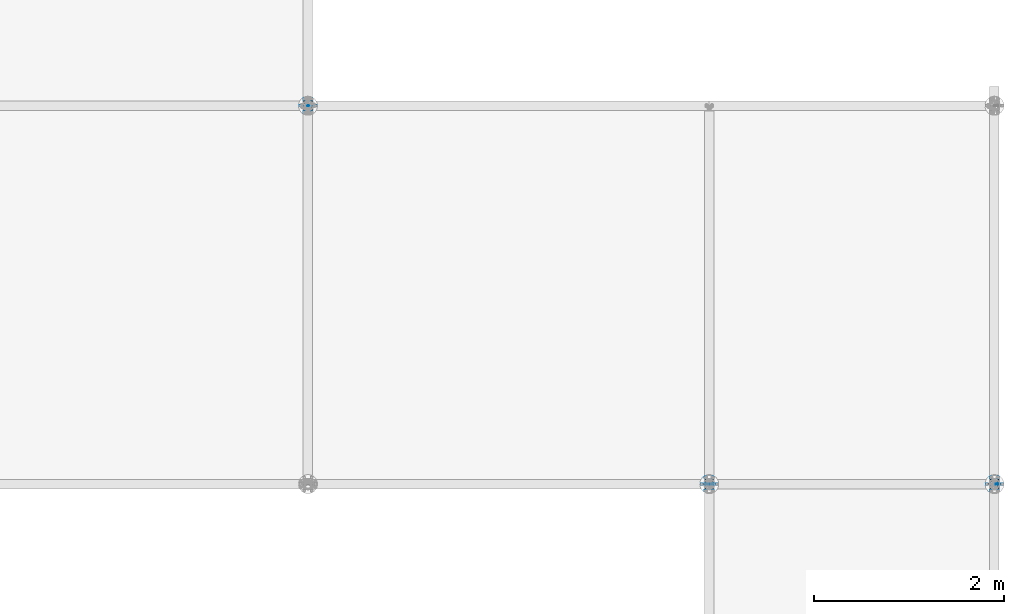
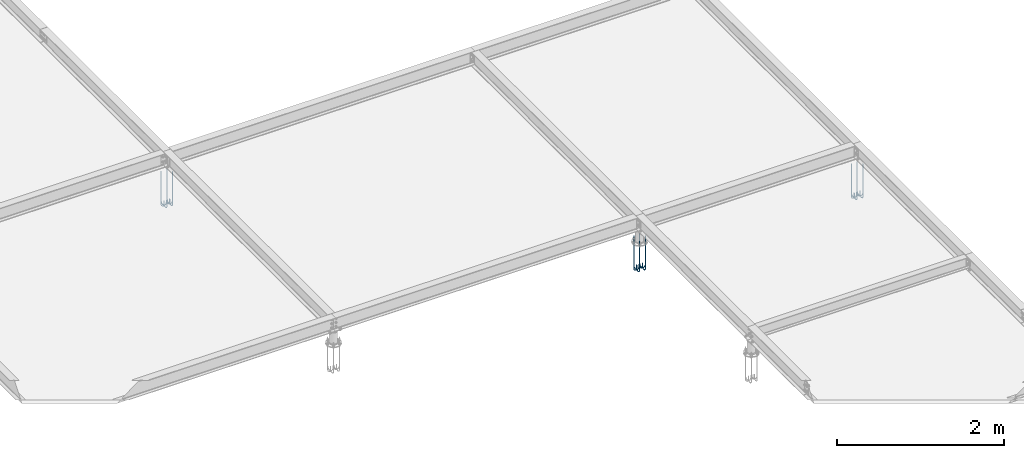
# One storey, part 13 of 84: 9 reinforcing bars.
"""IFC4 building model written with IfcOpenShell, lengths in metres."""

from ifc_helpers import new_model, entity, si_unit, frame, origin_with_axes, place, context, project, spatial, source, transform, mapped, element, save


model = new_model("IFC4")

# Units and contexts
model_context = context("Model", 3, precision=1e-05, world=origin_with_axes())
ifc_project = project(units=[si_unit("LENGTHUNIT", "METRE"), si_unit("AREAUNIT", "SQUARE_METRE"), si_unit("VOLUMEUNIT", "CUBIC_METRE"), si_unit("MASSUNIT", "GRAM", prefix="KILO"), si_unit("TIMEUNIT", "SECOND"), si_unit("PLANEANGLEUNIT", "RADIAN"), si_unit("SOLIDANGLEUNIT", "STERADIAN"), si_unit("THERMODYNAMICTEMPERATUREUNIT", "DEGREE_CELSIUS")], contexts=[model_context])

# Site, building, storey
placement_1 = place(None, origin_with_axes())
site = spatial("IfcSite", under=ifc_project, at=placement_1, Name="Italia", CompositionType="ELEMENT")
building = spatial("IfcBuilding", under=site, at=placement_1, Name="Tettoia", CompositionType="ELEMENT")
storey_placement = place(None, frame((0.0, 0.0, 4.199999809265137), z_axis=(0.0, 0.0, 1.0), x_axis=(1.0, 0.0, 0.0)))
storey = spatial("IfcBuildingStorey", under=building, at=storey_placement, Name="Storey 1", CompositionType="ELEMENT", Elevation=4.199999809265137)

# Reinforcing bars
shared_shape_1 = source(origin_with_axes(), model_context, "Body", "AdvancedSweptSolid", [
    entity("IfcSweptDiskSolid", entity("IfcIndexedPolyCurve", entity("IfcCartesianPointList3D", [[8.21, 9.97, 4.065], [8.21, 9.97, 3.642]]), [entity("IfcLineIndex", [1, 2])], False), 0.006),
])
placement_2 = place(placement_1, origin_with_axes())
reinforcing_bar_1_placement = place(placement_2, origin_with_axes())
element("IfcReinforcingBar", 1, at=reinforcing_bar_1_placement, inside=storey, BarLength=0.423, CrossSectionArea=0.0001131, NominalDiameter=0.012, context=model_context, shape_type="MappedRepresentation", body=[
    mapped(shared_shape_1, transform((0.120001, -0.0692816, 0.0), x_axis=(1.0, 0.0, 0.0), y_axis=(0.0, 1.0, 0.0), z_axis=(0.0, 0.0, 1.0), scale=1.0)),
    mapped(shared_shape_1, transform((0.0400009, -0.0692816, 0.0), x_axis=(1.0, 0.0, 0.0), y_axis=(0.0, 1.0, 0.0), z_axis=(0.0, 0.0, 1.0), scale=1.0)),
    mapped(shared_shape_1, transform((0.0, 0.0, 0.0), x_axis=(1.0, 0.0, 0.0), y_axis=(0.0, 1.0, 0.0), z_axis=(0.0, 0.0, 1.0), scale=1.0)),
    mapped(shared_shape_1, transform((0.0400009, 0.0692816, 0.0), x_axis=(1.0, 0.0, 0.0), y_axis=(0.0, 1.0, 0.0), z_axis=(0.0, 0.0, 1.0), scale=1.0)),
    mapped(shared_shape_1, transform((0.120001, 0.0692816, 0.0), x_axis=(1.0, 0.0, 0.0), y_axis=(0.0, 1.0, 0.0), z_axis=(0.0, 0.0, 1.0), scale=1.0)),
    mapped(shared_shape_1, transform((0.160002, 0.0, 0.0), x_axis=(1.0, 0.0, 0.0), y_axis=(0.0, 1.0, 0.0), z_axis=(0.0, 0.0, 1.0), scale=1.0)),
])
shared_shape_2 = source(origin_with_axes(), model_context, "Body", "AdvancedSweptSolid", [
    entity("IfcSweptDiskSolid", entity("IfcIndexedPolyCurve", entity("IfcCartesianPointList3D", [[8.21, 9.97, 3.642], [8.21274, 9.97, 3.62822]]), [entity("IfcLineIndex", [1, 2])], False), 0.006),
])
reinforcing_bar_2_placement = place(placement_2, origin_with_axes())
element("IfcReinforcingBar", 2, at=reinforcing_bar_2_placement, inside=storey, BarLength=0.0140465, CrossSectionArea=0.0001131, NominalDiameter=0.012, context=model_context, shape_type="MappedRepresentation", body=[
    mapped(shared_shape_2, transform((-1.64, 9.79446, -5.37005), x_axis=(0.0, -0.382719, 0.923865), y_axis=(1.0, 0.0, 0.0), z_axis=(0.0, 0.923865, 0.382719), scale=1.0)),
    mapped(shared_shape_2, transform((-1.72, 9.79446, -5.37005), x_axis=(0.0, -0.382719, 0.923865), y_axis=(1.0, 0.0, 0.0), z_axis=(0.0, 0.923865, 0.382719), scale=1.0)),
    mapped(shared_shape_2, transform((-1.64, 13.2593, -4.76388), x_axis=(0.0, -0.707153, 0.707061), y_axis=(1.0, 0.0, 0.0), z_axis=(0.0, 0.707061, 0.707153), scale=1.0)),
    mapped(shared_shape_2, transform((-1.72, 13.2593, -4.76388), x_axis=(0.0, -0.707153, 0.707061), y_axis=(1.0, 0.0, 0.0), z_axis=(0.0, 0.707061, 0.707153), scale=1.0)),
    mapped(shared_shape_2, transform((4.6923, 19.94, -4.60413), x_axis=(-3.65972e-05, 0.0, 1.0), y_axis=(0.0, -1.0, 0.0), z_axis=(1.0, 0.0, 3.65972e-05), scale=1.0)),
    mapped(shared_shape_2, transform((-1.72, 6.36158, -4.60413), x_axis=(0.0, -3.65972e-05, 1.0), y_axis=(1.0, 0.0, 0.0), z_axis=(0.0, 1.0, 3.65972e-05), scale=1.0)),
    mapped(shared_shape_2, transform((-1.64, 16.228, -2.8782), x_axis=(0.0, -0.923891, 0.382657), y_axis=(1.0, 0.0, 0.0), z_axis=(0.0, 0.382657, 0.923891), scale=1.0)),
    mapped(shared_shape_2, transform((-1.64, 3.48297, -2.58264), x_axis=(0.0, 0.382674, 0.923883), y_axis=(1.0, 0.0, 0.0), z_axis=(0.0, 0.923883, -0.382674), scale=1.0)),
    mapped(shared_shape_2, transform((8.12518, 19.94, -5.37005), x_axis=(-0.382719, 0.0, 0.923865), y_axis=(0.0, -1.0, 0.0), z_axis=(0.923865, 0.0, 0.382719), scale=1.0)),
    mapped(shared_shape_2, transform((-1.72, 16.228, -2.8782), x_axis=(0.0, -0.923891, 0.382657), y_axis=(1.0, 0.0, 0.0), z_axis=(0.0, 0.382657, 0.923891), scale=1.0)),
    mapped(shared_shape_2, transform((-1.72, 18.2495, 0.000547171), x_axis=(0.0, -1.0, -6.65933e-05), y_axis=(1.0, 0.0, 0.0), z_axis=(0.0, -6.65933e-05, 1.0), scale=1.0)),
    mapped(shared_shape_2, transform((-1.64, 6.36158, -4.60413), x_axis=(0.0, -3.65972e-05, 1.0), y_axis=(1.0, 0.0, 0.0), z_axis=(0.0, 1.0, 3.65972e-05), scale=1.0)),
    mapped(shared_shape_2, transform((1.81369, 19.94, -2.58264), x_axis=(0.382674, 0.0, 0.923883), y_axis=(0.0, -1.0, 0.0), z_axis=(0.923883, 0.0, -0.382674), scale=1.0)),
    mapped(shared_shape_2, transform((-1.64, 1.59753, 0.385624), x_axis=(0.0, 0.707034, 0.707179), y_axis=(1.0, 0.0, 0.0), z_axis=(0.0, 0.707179, -0.707034), scale=1.0)),
    mapped(shared_shape_2, transform((-1.72, 1.59753, 0.385624), x_axis=(0.0, 0.707034, 0.707179), y_axis=(1.0, 0.0, 0.0), z_axis=(0.0, 0.707179, -0.707034), scale=1.0)),
    mapped(shared_shape_2, transform((-1.64, 0.991239, 3.85112), x_axis=(0.0, 0.923878, 0.382688), y_axis=(1.0, 0.0, 0.0), z_axis=(0.0, 0.382688, -0.923878), scale=1.0)),
    mapped(shared_shape_2, transform((-1.72, 0.991239, 3.85112), x_axis=(0.0, 0.923878, 0.382688), y_axis=(1.0, 0.0, 0.0), z_axis=(0.0, 0.382688, -0.923878), scale=1.0)),
    mapped(shared_shape_2, transform((17.2581, 0.0, 3.85052), x_axis=(-0.923852, 0.0, 0.382749), y_axis=(0.0, 1.0, 0.0), z_axis=(-0.382749, 0.0, -0.923852), scale=1.0)),
    mapped(shared_shape_2, transform((-1.72, 3.48297, -2.58264), x_axis=(0.0, 0.382674, 0.923883), y_axis=(1.0, 0.0, 0.0), z_axis=(0.0, 0.923883, -0.382674), scale=1.0)),
    mapped(shared_shape_2, transform((-1.64, 18.2495, 0.000547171), x_axis=(0.0, -1.0, -6.65933e-05), y_axis=(1.0, 0.0, 0.0), z_axis=(0.0, -6.65933e-05, 1.0), scale=1.0)),
    mapped(shared_shape_2, transform((-0.0721188, 19.94, 0.386569), x_axis=(0.707114, 0.0, 0.707099), y_axis=(0.0, -1.0, 0.0), z_axis=(0.707099, 0.0, -0.707114), scale=1.0)),
    mapped(shared_shape_2, transform((-0.678057, 19.94, 3.85052), x_axis=(0.923852, 0.0, 0.382749), y_axis=(0.0, -1.0, 0.0), z_axis=(0.382749, 0.0, -0.923852), scale=1.0)),
    mapped(shared_shape_2, transform((16.6521, 0.0, 0.386569), x_axis=(-0.707114, 0.0, 0.707099), y_axis=(0.0, 1.0, 0.0), z_axis=(-0.707099, 0.0, -0.707114), scale=1.0)),
    mapped(shared_shape_2, transform((18.3, 10.1455, -5.37005), x_axis=(0.0, 0.382719, 0.923865), y_axis=(-1.0, 0.0, 0.0), z_axis=(0.0, -0.923865, 0.382719), scale=1.0)),
    mapped(shared_shape_2, transform((4.99025, 0.0, -4.764), x_axis=(0.707126, 0.0, 0.707088), y_axis=(0.0, 1.0, 0.0), z_axis=(-0.707088, 0.0, 0.707126), scale=1.0)),
    mapped(shared_shape_2, transform((14.7663, 0.0, -2.58264), x_axis=(-0.382674, 0.0, 0.923883), y_axis=(0.0, 1.0, 0.0), z_axis=(-0.923883, 0.0, -0.382674), scale=1.0)),
    mapped(shared_shape_2, transform((11.8877, 0.0, -4.60413), x_axis=(3.65972e-05, 0.0, 1.0), y_axis=(0.0, 1.0, 0.0), z_axis=(-1.0, 0.0, 3.65972e-05), scale=1.0)),
    mapped(shared_shape_2, transform((8.45482, 0.0, -5.37005), x_axis=(0.382719, 0.0, 0.923865), y_axis=(0.0, 1.0, 0.0), z_axis=(-0.923865, 0.0, 0.382719), scale=1.0)),
    mapped(shared_shape_2, transform((11.5897, 19.94, -4.764), x_axis=(-0.707126, 0.0, 0.707088), y_axis=(0.0, -1.0, 0.0), z_axis=(0.707088, 0.0, 0.707126), scale=1.0)),
    mapped(shared_shape_2, transform((14.5588, 19.94, -2.8782), x_axis=(-0.923891, 0.0, 0.382657), y_axis=(0.0, -1.0, 0.0), z_axis=(0.382657, 0.0, 0.923891), scale=1.0)),
    mapped(shared_shape_2, transform((18.22, 13.5784, -4.60413), x_axis=(0.0, 3.65972e-05, 1.0), y_axis=(-1.0, 0.0, 0.0), z_axis=(0.0, -1.0, 3.65972e-05), scale=1.0)),
    mapped(shared_shape_2, transform((18.22, 6.68066, -4.76388), x_axis=(0.0, 0.707153, 0.707061), y_axis=(-1.0, 0.0, 0.0), z_axis=(0.0, -0.707061, 0.707153), scale=1.0)),
    mapped(shared_shape_2, transform((18.3, 3.71195, -2.8782), x_axis=(0.0, 0.923891, 0.382657), y_axis=(-1.0, 0.0, 0.0), z_axis=(0.0, -0.382657, 0.923891), scale=1.0)),
    mapped(shared_shape_2, transform((18.3, 6.68066, -4.76388), x_axis=(0.0, 0.707153, 0.707061), y_axis=(-1.0, 0.0, 0.0), z_axis=(0.0, -0.707061, 0.707153), scale=1.0)),
    mapped(shared_shape_2, transform((18.22, 3.71195, -2.8782), x_axis=(0.0, 0.923891, 0.382657), y_axis=(-1.0, 0.0, 0.0), z_axis=(0.0, -0.382657, 0.923891), scale=1.0)),
    mapped(shared_shape_2, transform((18.22, 10.1455, -5.37005), x_axis=(0.0, 0.382719, 0.923865), y_axis=(-1.0, 0.0, 0.0), z_axis=(0.0, -0.923865, 0.382719), scale=1.0)),
    mapped(shared_shape_2, transform((18.3, 13.5784, -4.60413), x_axis=(0.0, 3.65972e-05, 1.0), y_axis=(-1.0, 0.0, 0.0), z_axis=(0.0, -1.0, 3.65972e-05), scale=1.0)),
    mapped(shared_shape_2, transform((2.02123, 0.0, -2.8782), x_axis=(0.923891, 0.0, 0.382657), y_axis=(0.0, 1.0, 0.0), z_axis=(-0.382657, 0.0, 0.923891), scale=1.0)),
    mapped(shared_shape_2, transform((16.58, 19.94, 0.0), x_axis=(-1.0, 0.0, 0.0), y_axis=(0.0, -1.0, 0.0), z_axis=(0.0, 0.0, 1.0), scale=1.0)),
    mapped(shared_shape_2, transform((18.3, 16.457, -2.58264), x_axis=(0.0, -0.382674, 0.923883), y_axis=(-1.0, 0.0, 0.0), z_axis=(0.0, -0.923883, -0.382674), scale=1.0)),
    mapped(shared_shape_2, transform((18.22, 16.457, -2.58264), x_axis=(0.0, -0.382674, 0.923883), y_axis=(-1.0, 0.0, 0.0), z_axis=(0.0, -0.923883, -0.382674), scale=1.0)),
    mapped(shared_shape_2, transform((0.0, 0.0, 0.0), x_axis=(1.0, 0.0, 0.0), y_axis=(0.0, 1.0, 0.0), z_axis=(0.0, 0.0, 1.0), scale=1.0)),
    mapped(shared_shape_2, transform((18.22, 18.9488, 3.85112), x_axis=(0.0, -0.923878, 0.382688), y_axis=(-1.0, 0.0, 0.0), z_axis=(0.0, -0.382688, -0.923878), scale=1.0)),
    mapped(shared_shape_2, transform((18.22, 18.3425, 0.385624), x_axis=(0.0, -0.707034, 0.707179), y_axis=(-1.0, 0.0, 0.0), z_axis=(0.0, -0.707179, -0.707034), scale=1.0)),
    mapped(shared_shape_2, transform((18.22, 1.69048, 0.000547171), x_axis=(0.0, 1.0, -6.65933e-05), y_axis=(-1.0, 0.0, 0.0), z_axis=(0.0, 6.65933e-05, 1.0), scale=1.0)),
    mapped(shared_shape_2, transform((18.3, 18.9488, 3.85112), x_axis=(0.0, -0.923878, 0.382688), y_axis=(-1.0, 0.0, 0.0), z_axis=(0.0, -0.382688, -0.923878), scale=1.0)),
    mapped(shared_shape_2, transform((18.3, 18.3425, 0.385624), x_axis=(0.0, -0.707034, 0.707179), y_axis=(-1.0, 0.0, 0.0), z_axis=(0.0, -0.707179, -0.707034), scale=1.0)),
    mapped(shared_shape_2, transform((18.3, 1.69048, 0.000547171), x_axis=(0.0, 1.0, -6.65933e-05), y_axis=(-1.0, 0.0, 0.0), z_axis=(0.0, 6.65933e-05, 1.0), scale=1.0)),
])
shared_shape_3 = source(origin_with_axes(), model_context, "Body", "AdvancedSweptSolid", [
    entity("IfcSweptDiskSolid", entity("IfcIndexedPolyCurve", entity("IfcCartesianPointList3D", [[8.282, 9.97, 3.642], [8.282, 9.97, 3.678]]), [entity("IfcLineIndex", [1, 2])], False), 0.006),
])
reinforcing_bar_3_placement = place(placement_2, origin_with_axes())
element("IfcReinforcingBar", 3, at=reinforcing_bar_3_placement, inside=storey, BarLength=0.0359998, CrossSectionArea=0.0001131, NominalDiameter=0.012, context=model_context, shape_type="MappedRepresentation", body=[
    mapped(shared_shape_3, transform((0.0480003, 0.00271797, 0.0), x_axis=(1.0, 0.0, 0.0), y_axis=(0.0, 1.0, 0.0), z_axis=(0.0, 0.0, 1.0), scale=1.0)),
    mapped(shared_shape_3, transform((-0.0319996, 0.00271797, 0.0), x_axis=(1.0, 0.0, 0.0), y_axis=(0.0, 1.0, 0.0), z_axis=(0.0, 0.0, 1.0), scale=1.0)),
    mapped(shared_shape_3, transform((0.0, 0.0, 0.0), x_axis=(1.0, 0.0, 0.0), y_axis=(0.0, 1.0, 0.0), z_axis=(0.0, 0.0, 1.0), scale=1.0)),
    mapped(shared_shape_3, transform((-0.0319996, -0.00271797, 0.0), x_axis=(1.0, 0.0, 0.0), y_axis=(0.0, 1.0, 0.0), z_axis=(0.0, 0.0, 1.0), scale=1.0)),
    mapped(shared_shape_3, transform((0.0480003, -0.00271797, 0.0), x_axis=(1.0, 0.0, 0.0), y_axis=(0.0, 1.0, 0.0), z_axis=(0.0, 0.0, 1.0), scale=1.0)),
    mapped(shared_shape_3, transform((0.0160007, 0.0, 0.0), x_axis=(1.0, 0.0, 0.0), y_axis=(0.0, 1.0, 0.0), z_axis=(0.0, 0.0, 1.0), scale=1.0)),
])
shared_shape_4 = source(origin_with_axes(), model_context, "Body", "AdvancedSweptSolid", [
    entity("IfcSweptDiskSolid", entity("IfcIndexedPolyCurve", entity("IfcCartesianPointList3D", [[11.21, 9.97, 4.065], [11.21, 9.97, 3.642]]), [entity("IfcLineIndex", [1, 2])], False), 0.006),
])
reinforcing_bar_4_placement = place(placement_2, origin_with_axes())
element("IfcReinforcingBar", 4, at=reinforcing_bar_4_placement, inside=storey, BarLength=0.423, CrossSectionArea=0.0001131, NominalDiameter=0.012, context=model_context, shape_type="MappedRepresentation", body=[
    mapped(shared_shape_4, transform((0.120001, -0.0692816, 0.0), x_axis=(1.0, 0.0, 0.0), y_axis=(0.0, 1.0, 0.0), z_axis=(0.0, 0.0, 1.0), scale=1.0)),
    mapped(shared_shape_4, transform((0.0400009, -0.0692816, 0.0), x_axis=(1.0, 0.0, 0.0), y_axis=(0.0, 1.0, 0.0), z_axis=(0.0, 0.0, 1.0), scale=1.0)),
    mapped(shared_shape_4, transform((0.0, 0.0, 0.0), x_axis=(1.0, 0.0, 0.0), y_axis=(0.0, 1.0, 0.0), z_axis=(0.0, 0.0, 1.0), scale=1.0)),
    mapped(shared_shape_4, transform((0.0400009, 0.0692816, 0.0), x_axis=(1.0, 0.0, 0.0), y_axis=(0.0, 1.0, 0.0), z_axis=(0.0, 0.0, 1.0), scale=1.0)),
    mapped(shared_shape_4, transform((0.120001, 0.0692816, 0.0), x_axis=(1.0, 0.0, 0.0), y_axis=(0.0, 1.0, 0.0), z_axis=(0.0, 0.0, 1.0), scale=1.0)),
    mapped(shared_shape_4, transform((0.160002, 0.0, 0.0), x_axis=(1.0, 0.0, 0.0), y_axis=(0.0, 1.0, 0.0), z_axis=(0.0, 0.0, 1.0), scale=1.0)),
])
shared_shape_5 = source(origin_with_axes(), model_context, "Body", "AdvancedSweptSolid", [
    entity("IfcSweptDiskSolid", entity("IfcIndexedPolyCurve", entity("IfcCartesianPointList3D", [[11.21, 9.97, 3.642], [11.2127, 9.97, 3.62822]]), [entity("IfcLineIndex", [1, 2])], False), 0.006),
])
reinforcing_bar_5_placement = place(placement_2, origin_with_axes())
element("IfcReinforcingBar", 5, at=reinforcing_bar_5_placement, inside=storey, BarLength=0.0140465, CrossSectionArea=0.0001131, NominalDiameter=0.012, context=model_context, shape_type="MappedRepresentation", body=[
    mapped(shared_shape_5, transform((-0.449615, 19.94, 2.70227), x_axis=(0.923852, 0.0, 0.382749), y_axis=(0.0, -1.0, 0.0), z_axis=(0.382749, 0.0, -0.923852), scale=1.0)),
    mapped(shared_shape_5, transform((0.806538, 19.94, -1.73473), x_axis=(0.707114, 0.0, 0.707099), y_axis=(0.0, -1.0, 0.0), z_axis=(0.707099, 0.0, -0.707114), scale=1.0)),
    mapped(shared_shape_5, transform((1.28, 2.33495, -5.35429), x_axis=(0.0, 0.382674, 0.923883), y_axis=(1.0, 0.0, 0.0), z_axis=(0.0, 0.923883, -0.382674), scale=1.0)),
    mapped(shared_shape_5, transform((1.28, 6.36169, -7.60413), x_axis=(0.0, -3.65972e-05, 1.0), y_axis=(1.0, 0.0, 0.0), z_axis=(0.0, 1.0, 3.65972e-05), scale=1.0)),
    mapped(shared_shape_5, transform((1.28, 10.9426, -8.14165), x_axis=(0.0, -0.382719, 0.923865), y_axis=(1.0, 0.0, 0.0), z_axis=(0.0, 0.923865, 0.382719), scale=1.0)),
    mapped(shared_shape_5, transform((1.36, 15.3808, -6.88506), x_axis=(0.0, -0.707153, 0.707061), y_axis=(1.0, 0.0, 0.0), z_axis=(0.0, 0.707061, 0.707153), scale=1.0)),
    mapped(shared_shape_5, transform((1.28, 15.3808, -6.88506), x_axis=(0.0, -0.707153, 0.707061), y_axis=(1.0, 0.0, 0.0), z_axis=(0.0, 0.707061, 0.707153), scale=1.0)),
    mapped(shared_shape_5, transform((1.36, 18.9997, -4.02617), x_axis=(0.0, -0.923891, 0.382657), y_axis=(1.0, 0.0, 0.0), z_axis=(0.0, 0.382657, 0.923891), scale=1.0)),
    mapped(shared_shape_5, transform((1.36, 10.9426, -8.14165), x_axis=(0.0, -0.382719, 0.923865), y_axis=(1.0, 0.0, 0.0), z_axis=(0.0, 0.923865, 0.382719), scale=1.0)),
    mapped(shared_shape_5, transform((7.69241, 19.94, -7.60413), x_axis=(-3.65972e-05, 0.0, 1.0), y_axis=(0.0, -1.0, 0.0), z_axis=(1.0, 0.0, 3.65972e-05), scale=1.0)),
    mapped(shared_shape_5, transform((1.36, 2.33495, -5.35429), x_axis=(0.0, 0.382674, 0.923883), y_axis=(1.0, 0.0, 0.0), z_axis=(0.0, 0.923883, -0.382674), scale=1.0)),
    mapped(shared_shape_5, transform((1.36, 6.36169, -7.60413), x_axis=(0.0, -3.65972e-05, 1.0), y_axis=(1.0, 0.0, 0.0), z_axis=(0.0, 1.0, 3.65972e-05), scale=1.0)),
    mapped(shared_shape_5, transform((3.66566, 19.94, -5.35429), x_axis=(0.382674, 0.0, 0.923883), y_axis=(0.0, -1.0, 0.0), z_axis=(0.923883, 0.0, -0.382674), scale=1.0)),
    mapped(shared_shape_5, transform((1.28, 18.9997, -4.02617), x_axis=(0.0, -0.923891, 0.382657), y_axis=(1.0, 0.0, 0.0), z_axis=(0.0, 0.382657, 0.923891), scale=1.0)),
    mapped(shared_shape_5, transform((12.2733, 19.94, -8.14165), x_axis=(-0.382719, 0.0, 0.923865), y_axis=(0.0, -1.0, 0.0), z_axis=(0.923865, 0.0, 0.382719), scale=1.0)),
    mapped(shared_shape_5, transform((21.22, -1.30952, 0.00074625), x_axis=(0.0, 1.0, -6.65933e-05), y_axis=(-1.0, 0.0, 0.0), z_axis=(0.0, 6.65933e-05, 1.0), scale=1.0)),
    mapped(shared_shape_5, transform((1.28, -1.7804, 2.70305), x_axis=(0.0, 0.923878, 0.382688), y_axis=(1.0, 0.0, 0.0), z_axis=(0.0, 0.382688, -0.923878), scale=1.0)),
    mapped(shared_shape_5, transform((1.28, -0.523575, -1.73591), x_axis=(0.0, 0.707034, 0.707179), y_axis=(1.0, 0.0, 0.0), z_axis=(0.0, 0.707179, -0.707034), scale=1.0)),
    mapped(shared_shape_5, transform((1.36, -1.7804, 2.70305), x_axis=(0.0, 0.923878, 0.382688), y_axis=(1.0, 0.0, 0.0), z_axis=(0.0, 0.382688, -0.923878), scale=1.0)),
    mapped(shared_shape_5, transform((1.36, -0.523575, -1.73591), x_axis=(0.0, 0.707034, 0.707179), y_axis=(1.0, 0.0, 0.0), z_axis=(0.0, 0.707179, -0.707034), scale=1.0)),
    mapped(shared_shape_5, transform((21.7735, 0.0, -1.73473), x_axis=(-0.707114, 0.0, 0.707099), y_axis=(0.0, 1.0, 0.0), z_axis=(-0.707099, 0.0, -0.707114), scale=1.0)),
    mapped(shared_shape_5, transform((0.0, 0.0, 0.0), x_axis=(1.0, 0.0, 0.0), y_axis=(0.0, 1.0, 0.0), z_axis=(0.0, 0.0, 1.0), scale=1.0)),
    mapped(shared_shape_5, transform((1.36, 21.2495, 0.00074625), x_axis=(0.0, -1.0, -6.65933e-05), y_axis=(1.0, 0.0, 0.0), z_axis=(0.0, -6.65933e-05, 1.0), scale=1.0)),
    mapped(shared_shape_5, transform((1.28, 21.2495, 0.00074625), x_axis=(0.0, -1.0, -6.65933e-05), y_axis=(1.0, 0.0, 0.0), z_axis=(0.0, -6.65933e-05, 1.0), scale=1.0)),
    mapped(shared_shape_5, transform((21.22, 8.99738, -8.14165), x_axis=(0.0, 0.382719, 0.923865), y_axis=(-1.0, 0.0, 0.0), z_axis=(0.0, -0.923865, 0.382719), scale=1.0)),
    mapped(shared_shape_5, transform((14.8876, 0.0, -7.60413), x_axis=(3.65972e-05, 0.0, 1.0), y_axis=(0.0, 1.0, 0.0), z_axis=(-1.0, 0.0, 3.65972e-05), scale=1.0)),
    mapped(shared_shape_5, transform((2.24956, 0.0, -4.02617), x_axis=(0.923891, 0.0, 0.382657), y_axis=(0.0, 1.0, 0.0), z_axis=(-0.382657, 0.0, 0.923891), scale=1.0)),
    mapped(shared_shape_5, transform((18.9143, 0.0, -5.35429), x_axis=(-0.382674, 0.0, 0.923883), y_axis=(0.0, 1.0, 0.0), z_axis=(-0.923883, 0.0, -0.382674), scale=1.0)),
    mapped(shared_shape_5, transform((21.3, 8.99738, -8.14165), x_axis=(0.0, 0.382719, 0.923865), y_axis=(-1.0, 0.0, 0.0), z_axis=(0.0, -0.923865, 0.382719), scale=1.0)),
    mapped(shared_shape_5, transform((5.86888, 0.0, -6.88526), x_axis=(0.707126, 0.0, 0.707088), y_axis=(0.0, 1.0, 0.0), z_axis=(-0.707088, 0.0, 0.707126), scale=1.0)),
    mapped(shared_shape_5, transform((21.3, -1.30952, 0.00074625), x_axis=(0.0, 1.0, -6.65933e-05), y_axis=(-1.0, 0.0, 0.0), z_axis=(0.0, 6.65933e-05, 1.0), scale=1.0)),
    mapped(shared_shape_5, transform((23.0296, 0.0, 2.70227), x_axis=(-0.923852, 0.0, 0.382749), y_axis=(0.0, 1.0, 0.0), z_axis=(-0.382749, 0.0, -0.923852), scale=1.0)),
    mapped(shared_shape_5, transform((10.3067, 0.0, -8.14165), x_axis=(0.382719, 0.0, 0.923865), y_axis=(0.0, 1.0, 0.0), z_axis=(-0.923865, 0.0, 0.382719), scale=1.0)),
    mapped(shared_shape_5, transform((20.3304, 19.94, -4.02617), x_axis=(-0.923891, 0.0, 0.382657), y_axis=(0.0, -1.0, 0.0), z_axis=(0.382657, 0.0, 0.923891), scale=1.0)),
    mapped(shared_shape_5, transform((16.7111, 19.94, -6.88526), x_axis=(-0.707126, 0.0, 0.707088), y_axis=(0.0, -1.0, 0.0), z_axis=(0.707088, 0.0, 0.707126), scale=1.0)),
    mapped(shared_shape_5, transform((21.22, 21.7204, 2.70305), x_axis=(0.0, -0.923878, 0.382688), y_axis=(-1.0, 0.0, 0.0), z_axis=(0.0, -0.382688, -0.923878), scale=1.0)),
    mapped(shared_shape_5, transform((21.22, 20.4636, -1.73591), x_axis=(0.0, -0.707034, 0.707179), y_axis=(-1.0, 0.0, 0.0), z_axis=(0.0, -0.707179, -0.707034), scale=1.0)),
    mapped(shared_shape_5, transform((21.22, 17.6051, -5.35429), x_axis=(0.0, -0.382674, 0.923883), y_axis=(-1.0, 0.0, 0.0), z_axis=(0.0, -0.923883, -0.382674), scale=1.0)),
    mapped(shared_shape_5, transform((21.3, 13.5783, -7.60413), x_axis=(0.0, 3.65972e-05, 1.0), y_axis=(-1.0, 0.0, 0.0), z_axis=(0.0, -1.0, 3.65972e-05), scale=1.0)),
    mapped(shared_shape_5, transform((21.22, 4.5592, -6.88506), x_axis=(0.0, 0.707153, 0.707061), y_axis=(-1.0, 0.0, 0.0), z_axis=(0.0, -0.707061, 0.707153), scale=1.0)),
    mapped(shared_shape_5, transform((21.3, 4.5592, -6.88506), x_axis=(0.0, 0.707153, 0.707061), y_axis=(-1.0, 0.0, 0.0), z_axis=(0.0, -0.707061, 0.707153), scale=1.0)),
    mapped(shared_shape_5, transform((21.3, 0.940281, -4.02617), x_axis=(0.0, 0.923891, 0.382657), y_axis=(-1.0, 0.0, 0.0), z_axis=(0.0, -0.382657, 0.923891), scale=1.0)),
    mapped(shared_shape_5, transform((21.22, 13.5783, -7.60413), x_axis=(0.0, 3.65972e-05, 1.0), y_axis=(-1.0, 0.0, 0.0), z_axis=(0.0, -1.0, 3.65972e-05), scale=1.0)),
    mapped(shared_shape_5, transform((21.3, 17.6051, -5.35429), x_axis=(0.0, -0.382674, 0.923883), y_axis=(-1.0, 0.0, 0.0), z_axis=(0.0, -0.923883, -0.382674), scale=1.0)),
    mapped(shared_shape_5, transform((21.22, 0.940281, -4.02617), x_axis=(0.0, 0.923891, 0.382657), y_axis=(-1.0, 0.0, 0.0), z_axis=(0.0, -0.382657, 0.923891), scale=1.0)),
    mapped(shared_shape_5, transform((21.3, 21.7204, 2.70305), x_axis=(0.0, -0.923878, 0.382688), y_axis=(-1.0, 0.0, 0.0), z_axis=(0.0, -0.382688, -0.923878), scale=1.0)),
    mapped(shared_shape_5, transform((21.3, 20.4636, -1.73591), x_axis=(0.0, -0.707034, 0.707179), y_axis=(-1.0, 0.0, 0.0), z_axis=(0.0, -0.707179, -0.707034), scale=1.0)),
    mapped(shared_shape_5, transform((22.58, 19.94, 0.0), x_axis=(-1.0, 0.0, 0.0), y_axis=(0.0, -1.0, 0.0), z_axis=(0.0, 0.0, 1.0), scale=1.0)),
])
shared_shape_6 = source(origin_with_axes(), model_context, "Body", "AdvancedSweptSolid", [
    entity("IfcSweptDiskSolid", entity("IfcIndexedPolyCurve", entity("IfcCartesianPointList3D", [[11.282, 9.97, 3.642], [11.282, 9.97, 3.678]]), [entity("IfcLineIndex", [1, 2])], False), 0.006),
])
reinforcing_bar_6_placement = place(placement_2, origin_with_axes())
element("IfcReinforcingBar", 6, at=reinforcing_bar_6_placement, inside=storey, BarLength=0.0359998, CrossSectionArea=0.0001131, NominalDiameter=0.012, context=model_context, shape_type="MappedRepresentation", body=[
    mapped(shared_shape_6, transform((0.0480003, 0.00271797, 0.0), x_axis=(1.0, 0.0, 0.0), y_axis=(0.0, 1.0, 0.0), z_axis=(0.0, 0.0, 1.0), scale=1.0)),
    mapped(shared_shape_6, transform((-0.0319996, 0.00271797, 0.0), x_axis=(1.0, 0.0, 0.0), y_axis=(0.0, 1.0, 0.0), z_axis=(0.0, 0.0, 1.0), scale=1.0)),
    mapped(shared_shape_6, transform((0.0, 0.0, 0.0), x_axis=(1.0, 0.0, 0.0), y_axis=(0.0, 1.0, 0.0), z_axis=(0.0, 0.0, 1.0), scale=1.0)),
    mapped(shared_shape_6, transform((-0.0319996, -0.00271797, 0.0), x_axis=(1.0, 0.0, 0.0), y_axis=(0.0, 1.0, 0.0), z_axis=(0.0, 0.0, 1.0), scale=1.0)),
    mapped(shared_shape_6, transform((0.0480003, -0.00271797, 0.0), x_axis=(1.0, 0.0, 0.0), y_axis=(0.0, 1.0, 0.0), z_axis=(0.0, 0.0, 1.0), scale=1.0)),
    mapped(shared_shape_6, transform((0.0160007, 0.0, 0.0), x_axis=(1.0, 0.0, 0.0), y_axis=(0.0, 1.0, 0.0), z_axis=(0.0, 0.0, 1.0), scale=1.0)),
])
shared_shape_7 = source(origin_with_axes(), model_context, "Body", "AdvancedSweptSolid", [
    entity("IfcSweptDiskSolid", entity("IfcIndexedPolyCurve", entity("IfcCartesianPointList3D", [[3.99, 13.95, 4.065], [3.99, 13.95, 3.642]]), [entity("IfcLineIndex", [1, 2])], False), 0.006),
])
reinforcing_bar_7_placement = place(placement_2, origin_with_axes())
element("IfcReinforcingBar", 7, at=reinforcing_bar_7_placement, inside=storey, BarLength=0.423, CrossSectionArea=0.0001131, NominalDiameter=0.012, context=model_context, shape_type="MappedRepresentation", body=[
    mapped(shared_shape_7, transform((0.12, -0.0692806, 0.0), x_axis=(1.0, 0.0, 0.0), y_axis=(0.0, 1.0, 0.0), z_axis=(0.0, 0.0, 1.0), scale=1.0)),
    mapped(shared_shape_7, transform((0.04, -0.0692806, 0.0), x_axis=(1.0, 0.0, 0.0), y_axis=(0.0, 1.0, 0.0), z_axis=(0.0, 0.0, 1.0), scale=1.0)),
    mapped(shared_shape_7, transform((0.0, 0.0, 0.0), x_axis=(1.0, 0.0, 0.0), y_axis=(0.0, 1.0, 0.0), z_axis=(0.0, 0.0, 1.0), scale=1.0)),
    mapped(shared_shape_7, transform((0.04, 0.0692825, 0.0), x_axis=(1.0, 0.0, 0.0), y_axis=(0.0, 1.0, 0.0), z_axis=(0.0, 0.0, 1.0), scale=1.0)),
    mapped(shared_shape_7, transform((0.12, 0.0692825, 0.0), x_axis=(1.0, 0.0, 0.0), y_axis=(0.0, 1.0, 0.0), z_axis=(0.0, 0.0, 1.0), scale=1.0)),
    mapped(shared_shape_7, transform((0.16, 0.0, 0.0), x_axis=(1.0, 0.0, 0.0), y_axis=(0.0, 1.0, 0.0), z_axis=(0.0, 0.0, 1.0), scale=1.0)),
])
shared_shape_8 = source(origin_with_axes(), model_context, "Body", "AdvancedSweptSolid", [
    entity("IfcSweptDiskSolid", entity("IfcIndexedPolyCurve", entity("IfcCartesianPointList3D", [[3.99, 13.95, 3.642], [3.99274, 13.95, 3.62822]]), [entity("IfcLineIndex", [1, 2])], False), 0.006),
])
reinforcing_bar_8_placement = place(placement_2, origin_with_axes())
element("IfcReinforcingBar", 8, at=reinforcing_bar_8_placement, inside=storey, BarLength=0.0140465, CrossSectionArea=0.0001131, NominalDiameter=0.012, context=model_context, shape_type="MappedRepresentation", body=[
    mapped(shared_shape_8, transform((4.3857, 27.9, -1.78009), x_axis=(-0.707129, 0.0, 0.707085), y_axis=(0.0, -1.0, 0.0), z_axis=(0.707085, 0.0, 0.707129), scale=1.0)),
    mapped(shared_shape_8, transform((-9.84, 12.1592, -1.47128), x_axis=(0.0, -0.382688, 0.923878), y_axis=(1.0, 0.0, 0.0), z_axis=(0.0, 0.923878, 0.382688), scale=1.0)),
    mapped(shared_shape_8, transform((-9.92, 12.1592, -1.47128), x_axis=(0.0, -0.382688, 0.923878), y_axis=(1.0, 0.0, 0.0), z_axis=(0.0, 0.923878, 0.382688), scale=1.0)),
    mapped(shared_shape_8, transform((-9.92, 10.3413, -0.384012), x_axis=(0.0, 0.0, 1.0), y_axis=(1.0, 0.0, 0.0), z_axis=(0.0, 1.0, 0.0), scale=1.0)),
    mapped(shared_shape_8, transform((-9.84, 14.255, -1.78009), x_axis=(0.0, -0.707129, 0.707085), y_axis=(1.0, 0.0, 0.0), z_axis=(0.0, 0.707085, 0.707129), scale=1.0)),
    mapped(shared_shape_8, transform((-9.92, 14.255, -1.78009), x_axis=(0.0, -0.707129, 0.707085), y_axis=(1.0, 0.0, 0.0), z_axis=(0.0, 0.707085, 0.707129), scale=1.0)),
    mapped(shared_shape_8, transform((2.28994, 27.9, -1.47128), x_axis=(-0.382688, 0.0, 0.923878), y_axis=(0.0, -1.0, 0.0), z_axis=(0.923878, 0.0, 0.382688), scale=1.0)),
    mapped(shared_shape_8, transform((-9.84, 16.3091, -1.26346), x_axis=(0.0, -0.923878, 0.382688), y_axis=(1.0, 0.0, 0.0), z_axis=(0.0, 0.382688, 0.923878), scale=1.0)),
    mapped(shared_shape_8, transform((-9.92, 16.3091, -1.26346), x_axis=(0.0, -0.923878, 0.382688), y_axis=(1.0, 0.0, 0.0), z_axis=(0.0, 0.382688, 0.923878), scale=1.0)),
    mapped(shared_shape_8, transform((0.472014, 27.9, -0.384012), x_axis=(0.0, 0.0, 1.0), y_axis=(0.0, -1.0, 0.0), z_axis=(1.0, 0.0, 0.0), scale=1.0)),
    mapped(shared_shape_8, transform((-9.84, 18.0094, 0.000133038), x_axis=(0.0, -1.0, -3.32594e-05), y_axis=(1.0, 0.0, 0.0), z_axis=(0.0, -3.32594e-05, 1.0), scale=1.0)),
    mapped(shared_shape_8, transform((-9.84, 9.07778, 1.31631), x_axis=(0.0, 0.382705, 0.923871), y_axis=(1.0, 0.0, 0.0), z_axis=(0.0, 0.923871, -0.382705), scale=1.0)),
    mapped(shared_shape_8, transform((-9.84, 10.3413, -0.384012), x_axis=(0.0, 0.0, 1.0), y_axis=(1.0, 0.0, 0.0), z_axis=(0.0, 1.0, 0.0), scale=1.0)),
    mapped(shared_shape_8, transform((-9.84, 8.5612, 3.3701), x_axis=(0.0, 0.707058, 0.707156), y_axis=(1.0, 0.0, 0.0), z_axis=(0.0, 0.707156, -0.707058), scale=1.0)),
    mapped(shared_shape_8, transform((-9.92, 18.0094, 0.000133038), x_axis=(0.0, -1.0, -3.32594e-05), y_axis=(1.0, 0.0, 0.0), z_axis=(0.0, -3.32594e-05, 1.0), scale=1.0)),
    mapped(shared_shape_8, transform((-0.791462, 27.9, 1.31622), x_axis=(0.382688, 0.0, 0.923878), y_axis=(0.0, -1.0, 0.0), z_axis=(0.923878, 0.0, -0.382688), scale=1.0)),
    mapped(shared_shape_8, transform((-9.92, 8.87006, 5.46623), x_axis=(0.0, 0.92389, 0.382657), y_axis=(1.0, 0.0, 0.0), z_axis=(0.0, 0.382657, -0.92389), scale=1.0)),
    mapped(shared_shape_8, transform((-9.92, 8.5612, 3.3701), x_axis=(0.0, 0.707058, 0.707156), y_axis=(1.0, 0.0, 0.0), z_axis=(0.0, 0.707156, -0.707058), scale=1.0)),
    mapped(shared_shape_8, transform((-9.84, 8.87006, 5.46623), x_axis=(0.0, 0.92389, 0.382657), y_axis=(1.0, 0.0, 0.0), z_axis=(0.0, 0.382657, -0.92389), scale=1.0)),
    mapped(shared_shape_8, transform((-9.92, 9.07778, 1.31631), x_axis=(0.0, 0.382705, 0.923871), y_axis=(1.0, 0.0, 0.0), z_axis=(0.0, 0.923871, -0.382705), scale=1.0)),
    mapped(shared_shape_8, transform((-1.30809, 27.9, 3.3704), x_axis=(0.707098, 0.0, 0.707116), y_axis=(0.0, -1.0, 0.0), z_axis=(0.707116, 0.0, -0.707098), scale=1.0)),
    mapped(shared_shape_8, transform((-0.99928, 27.9, 5.46606), x_axis=(0.923878, 0.0, 0.382688), y_axis=(0.0, -1.0, 0.0), z_axis=(0.382688, 0.0, -0.923878), scale=1.0)),
    mapped(shared_shape_8, transform((9.13928, 0.0, 5.46606), x_axis=(-0.923878, 0.0, 0.382688), y_axis=(0.0, 1.0, 0.0), z_axis=(-0.382688, 0.0, -0.923878), scale=1.0)),
    mapped(shared_shape_8, transform((9.44809, 0.0, 3.3704), x_axis=(-0.707098, 0.0, 0.707116), y_axis=(0.0, 1.0, 0.0), z_axis=(-0.707116, 0.0, -0.707098), scale=1.0)),
    mapped(shared_shape_8, transform((17.98, 13.645, -1.78009), x_axis=(0.0, 0.707129, 0.707085), y_axis=(-1.0, 0.0, 0.0), z_axis=(0.0, -0.707085, 0.707129), scale=1.0)),
    mapped(shared_shape_8, transform((5.85006, 0.0, -1.47128), x_axis=(0.382688, 0.0, 0.923878), y_axis=(0.0, 1.0, 0.0), z_axis=(-0.923878, 0.0, 0.382688), scale=1.0)),
    mapped(shared_shape_8, transform((3.7543, 0.0, -1.78009), x_axis=(0.707129, 0.0, 0.707085), y_axis=(0.0, 1.0, 0.0), z_axis=(-0.707085, 0.0, 0.707129), scale=1.0)),
    mapped(shared_shape_8, transform((6.43979, 27.9, -1.26346), x_axis=(-0.923878, 0.0, 0.382688), y_axis=(0.0, -1.0, 0.0), z_axis=(0.382688, 0.0, 0.923878), scale=1.0)),
    mapped(shared_shape_8, transform((18.06, 15.7408, -1.47128), x_axis=(0.0, 0.382688, 0.923878), y_axis=(-1.0, 0.0, 0.0), z_axis=(0.0, -0.923878, 0.382688), scale=1.0)),
    mapped(shared_shape_8, transform((17.98, 15.7408, -1.47128), x_axis=(0.0, 0.382688, 0.923878), y_axis=(-1.0, 0.0, 0.0), z_axis=(0.0, -0.923878, 0.382688), scale=1.0)),
    mapped(shared_shape_8, transform((17.98, 11.5909, -1.26346), x_axis=(0.0, 0.923878, 0.382688), y_axis=(-1.0, 0.0, 0.0), z_axis=(0.0, -0.382688, 0.923878), scale=1.0)),
    mapped(shared_shape_8, transform((18.06, 11.5909, -1.26346), x_axis=(0.0, 0.923878, 0.382688), y_axis=(-1.0, 0.0, 0.0), z_axis=(0.0, -0.382688, 0.923878), scale=1.0)),
    mapped(shared_shape_8, transform((7.66799, 0.0, -0.384012), x_axis=(0.0, 0.0, 1.0), y_axis=(0.0, 1.0, 0.0), z_axis=(-1.0, 0.0, 0.0), scale=1.0)),
    mapped(shared_shape_8, transform((0.0, 0.0, 0.0), x_axis=(1.0, 0.0, 0.0), y_axis=(0.0, 1.0, 0.0), z_axis=(0.0, 0.0, 1.0), scale=1.0)),
    mapped(shared_shape_8, transform((8.93146, 0.0, 1.31622), x_axis=(-0.382688, 0.0, 0.923878), y_axis=(0.0, 1.0, 0.0), z_axis=(-0.923878, 0.0, -0.382688), scale=1.0)),
    mapped(shared_shape_8, transform((1.70022, 0.0, -1.26346), x_axis=(0.923878, 0.0, 0.382688), y_axis=(0.0, 1.0, 0.0), z_axis=(-0.382688, 0.0, 0.923878), scale=1.0)),
    mapped(shared_shape_8, transform((17.98, 19.3388, 3.3701), x_axis=(0.0, -0.707058, 0.707156), y_axis=(-1.0, 0.0, 0.0), z_axis=(0.0, -0.707156, -0.707058), scale=1.0)),
    mapped(shared_shape_8, transform((8.14, 27.9, 0.0), x_axis=(-1.0, 0.0, 0.0), y_axis=(0.0, -1.0, 0.0), z_axis=(0.0, 0.0, 1.0), scale=1.0)),
    mapped(shared_shape_8, transform((17.98, 19.0299, 5.46623), x_axis=(0.0, -0.92389, 0.382657), y_axis=(-1.0, 0.0, 0.0), z_axis=(0.0, -0.382657, -0.92389), scale=1.0)),
    mapped(shared_shape_8, transform((18.06, 17.5587, -0.384012), x_axis=(0.0, 0.0, 1.0), y_axis=(-1.0, 0.0, 0.0), z_axis=(0.0, -1.0, 0.0), scale=1.0)),
    mapped(shared_shape_8, transform((17.98, 18.8222, 1.31631), x_axis=(0.0, -0.382705, 0.923871), y_axis=(-1.0, 0.0, 0.0), z_axis=(0.0, -0.923871, -0.382705), scale=1.0)),
    mapped(shared_shape_8, transform((17.98, 17.5587, -0.384012), x_axis=(0.0, 0.0, 1.0), y_axis=(-1.0, 0.0, 0.0), z_axis=(0.0, -1.0, 0.0), scale=1.0)),
    mapped(shared_shape_8, transform((17.98, 9.8906, 0.000133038), x_axis=(0.0, 1.0, -3.32594e-05), y_axis=(-1.0, 0.0, 0.0), z_axis=(0.0, 3.32594e-05, 1.0), scale=1.0)),
    mapped(shared_shape_8, transform((18.06, 19.0299, 5.46623), x_axis=(0.0, -0.92389, 0.382657), y_axis=(-1.0, 0.0, 0.0), z_axis=(0.0, -0.382657, -0.92389), scale=1.0)),
    mapped(shared_shape_8, transform((18.06, 19.3388, 3.3701), x_axis=(0.0, -0.707058, 0.707156), y_axis=(-1.0, 0.0, 0.0), z_axis=(0.0, -0.707156, -0.707058), scale=1.0)),
    mapped(shared_shape_8, transform((18.06, 18.8222, 1.31631), x_axis=(0.0, -0.382705, 0.923871), y_axis=(-1.0, 0.0, 0.0), z_axis=(0.0, -0.923871, -0.382705), scale=1.0)),
    mapped(shared_shape_8, transform((18.06, 9.8906, 0.000133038), x_axis=(0.0, 1.0, -3.32594e-05), y_axis=(-1.0, 0.0, 0.0), z_axis=(0.0, 3.32594e-05, 1.0), scale=1.0)),
    mapped(shared_shape_8, transform((18.06, 13.645, -1.78009), x_axis=(0.0, 0.707129, 0.707085), y_axis=(-1.0, 0.0, 0.0), z_axis=(0.0, -0.707085, 0.707129), scale=1.0)),
])
shared_shape_9 = source(origin_with_axes(), model_context, "Body", "AdvancedSweptSolid", [
    entity("IfcSweptDiskSolid", entity("IfcIndexedPolyCurve", entity("IfcCartesianPointList3D", [[4.062, 13.95, 3.642], [4.062, 13.95, 3.678]]), [entity("IfcLineIndex", [1, 2])], False), 0.006),
])
reinforcing_bar_9_placement = place(placement_2, origin_with_axes())
element("IfcReinforcingBar", 9, at=reinforcing_bar_9_placement, inside=storey, BarLength=0.0359998, CrossSectionArea=0.0001131, NominalDiameter=0.012, context=model_context, shape_type="MappedRepresentation", body=[
    mapped(shared_shape_9, transform((0.0479999, 0.00271893, 0.0), x_axis=(1.0, 0.0, 0.0), y_axis=(0.0, 1.0, 0.0), z_axis=(0.0, 0.0, 1.0), scale=1.0)),
    mapped(shared_shape_9, transform((-0.0320001, 0.00271893, 0.0), x_axis=(1.0, 0.0, 0.0), y_axis=(0.0, 1.0, 0.0), z_axis=(0.0, 0.0, 1.0), scale=1.0)),
    mapped(shared_shape_9, transform((0.0, 0.0, 0.0), x_axis=(1.0, 0.0, 0.0), y_axis=(0.0, 1.0, 0.0), z_axis=(0.0, 0.0, 1.0), scale=1.0)),
    mapped(shared_shape_9, transform((-0.0320001, -0.00271702, 0.0), x_axis=(1.0, 0.0, 0.0), y_axis=(0.0, 1.0, 0.0), z_axis=(0.0, 0.0, 1.0), scale=1.0)),
    mapped(shared_shape_9, transform((0.0479999, -0.00271702, 0.0), x_axis=(1.0, 0.0, 0.0), y_axis=(0.0, 1.0, 0.0), z_axis=(0.0, 0.0, 1.0), scale=1.0)),
    mapped(shared_shape_9, transform((0.0159998, 0.0, 0.0), x_axis=(1.0, 0.0, 0.0), y_axis=(0.0, 1.0, 0.0), z_axis=(0.0, 0.0, 1.0), scale=1.0)),
])

save(model, "model.ifc")
